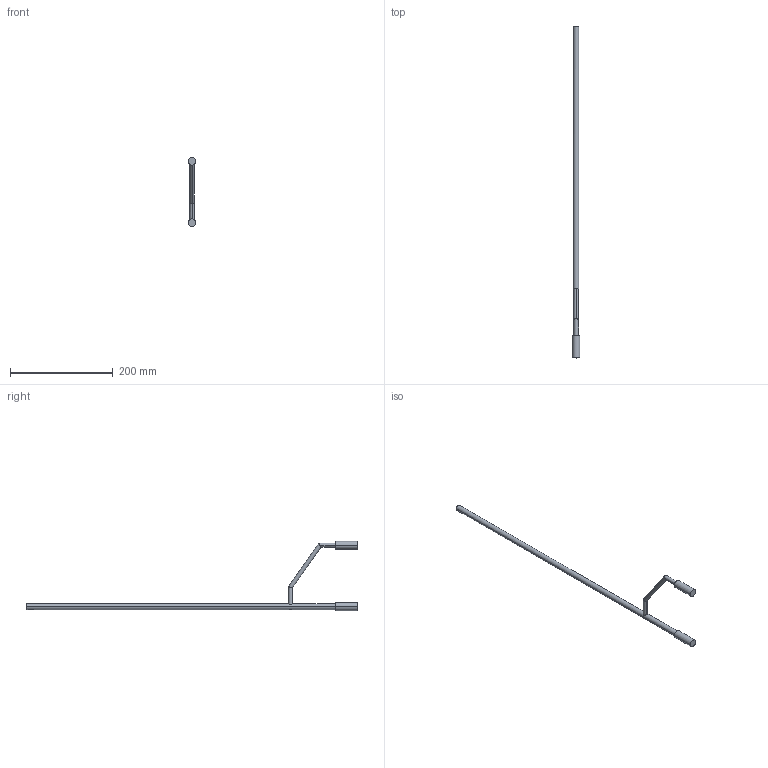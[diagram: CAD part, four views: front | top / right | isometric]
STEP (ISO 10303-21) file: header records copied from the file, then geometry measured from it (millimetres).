
FILE_DESCRIPTION (( 'STEP AP214' ), '1' );
FILE_NAME ('2S_RUL_Frontstütze_O710701300_650.step', '2011-10-10T13:18:19', ( 'grass' ), ( '' ), 'SwSTEP 2.0', 'SolidWorks 2011', '' );
FILE_SCHEMA (( 'AUTOMOTIVE_DESIGN' ));
Length unit declared in the file: millimetre
Products named in the file (1): 2S_RUL_Frontstütze_O710701300_650
Bounding box: 15 x 647.05 x 135 mm (x, y, z)
Volume: 42892.1 mm3; surface area: 46859.1 mm2
Topology: 1 solids, 1 shells, 33 faces, 74 edges, 48 vertices
Faces by surface type: cylinder 18, plane 15
Entity records: 1240 total; most frequent: CARTESIAN_POINT 454, DIRECTION 148, ORIENTED_EDGE 148, EDGE_CURVE 74, AXIS2_PLACEMENT_3D 56, VERTEX_POINT 48, EDGE_LOOP 42, LINE 36
